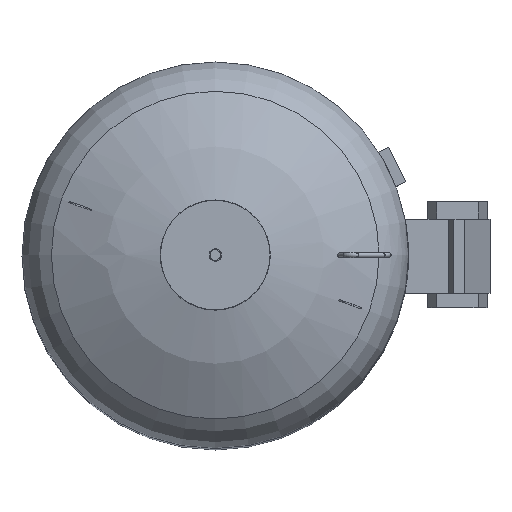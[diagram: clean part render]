
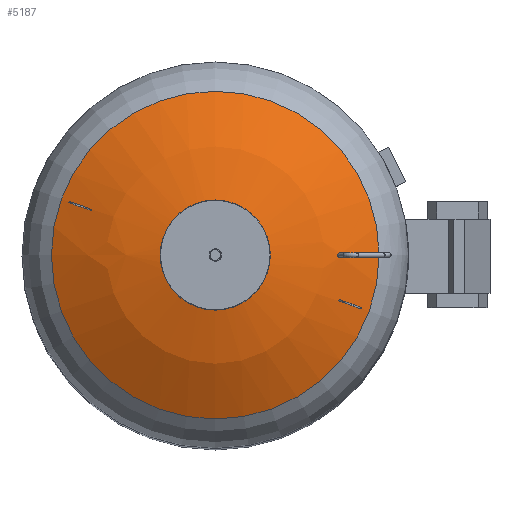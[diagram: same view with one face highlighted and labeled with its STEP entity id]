
A CAD part, top view. The second image highlights one B-rep face of the part: STEP entity #5187.
In plain terms, the highlighted spherical face has radius 967.7 mm.
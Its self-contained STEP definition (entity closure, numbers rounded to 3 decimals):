
#19=SPHERICAL_SURFACE('',#5566,967.7);
#142=FACE_BOUND('',#608,.T.);
#241=B_SPLINE_CURVE_WITH_KNOTS('',3,(#7773,#7774,#7775,#7776,#7777,#7778,
#7779,#7780,#7781,#7782,#7783,#7784,#7785,#7786,#7787,#7788,#7789,#7790),
 .UNSPECIFIED.,.F.,.F.,(4,2,2,2,2,2,2,2,4),(0.,0.302,0.605,
0.906,1.207,1.508,1.81,2.112,
2.414),.UNSPECIFIED.);
#242=B_SPLINE_CURVE_WITH_KNOTS('',3,(#7791,#7792,#7793,#7794,#7795,#7796,
#7797,#7798,#7799,#7800,#7801,#7802,#7803,#7804,#7805,#7806,#7807,#7808),
 .UNSPECIFIED.,.F.,.F.,(4,2,2,2,2,2,2,2,4),(2.414,2.717,
3.019,3.32,3.622,3.923,4.224,
4.526,4.829),.UNSPECIFIED.);
#314=FACE_OUTER_BOUND('',#607,.T.);
#607=EDGE_LOOP('',(#3604,#3605,#3606,#3607,#3608,#3609));
#608=EDGE_LOOP('',(#3610,#3611));
#1733=CIRCLE('',#5564,153.);
#1734=CIRCLE('',#5565,153.);
#1735=CIRCLE('',#5567,967.7);
#1736=CIRCLE('',#5568,508.692);
#1737=CIRCLE('',#5569,508.692);
#1989=VERTEX_POINT('',#7770);
#1990=VERTEX_POINT('',#7772);
#2107=VERTEX_POINT('',#8183);
#2108=VERTEX_POINT('',#8184);
#2109=VERTEX_POINT('',#8189);
#2110=VERTEX_POINT('',#8191);
#2518=EDGE_CURVE('',#1990,#1989,#241,.T.);
#2519=EDGE_CURVE('',#1989,#1990,#242,.T.);
#2687=EDGE_CURVE('',#2107,#2108,#1733,.T.);
#2688=EDGE_CURVE('',#2108,#2107,#1734,.T.);
#2690=EDGE_CURVE('',#2107,#2109,#1735,.T.);
#2691=EDGE_CURVE('',#2110,#2109,#1736,.T.);
#2692=EDGE_CURVE('',#2109,#2110,#1737,.T.);
#3604=ORIENTED_EDGE('',*,*,#2687,.T.);
#3605=ORIENTED_EDGE('',*,*,#2688,.T.);
#3606=ORIENTED_EDGE('',*,*,#2690,.T.);
#3607=ORIENTED_EDGE('',*,*,#2691,.F.);
#3608=ORIENTED_EDGE('',*,*,#2692,.F.);
#3609=ORIENTED_EDGE('',*,*,#2690,.F.);
#3610=ORIENTED_EDGE('',*,*,#2518,.T.);
#3611=ORIENTED_EDGE('',*,*,#2519,.T.);
#5187=ADVANCED_FACE('',(#314,#142),#19,.T.);
#5564=AXIS2_PLACEMENT_3D('',#8185,#6392,#6393);
#5565=AXIS2_PLACEMENT_3D('',#8186,#6394,#6395);
#5566=AXIS2_PLACEMENT_3D('',#8188,#6397,#6398);
#5567=AXIS2_PLACEMENT_3D('',#8190,#6399,#6400);
#5568=AXIS2_PLACEMENT_3D('',#8192,#6401,#6402);
#5569=AXIS2_PLACEMENT_3D('',#8193,#6403,#6404);
#6392=DIRECTION('center_axis',(0.,0.,-1.));
#6393=DIRECTION('ref_axis',(1.,0.,0.));
#6394=DIRECTION('center_axis',(0.,0.,-1.));
#6395=DIRECTION('ref_axis',(1.,0.,0.));
#6397=DIRECTION('center_axis',(0.,0.,1.));
#6398=DIRECTION('ref_axis',(1.,0.,0.));
#6399=DIRECTION('center_axis',(0.,-1.,0.));
#6400=DIRECTION('ref_axis',(-1.,0.,0.));
#6401=DIRECTION('center_axis',(0.,0.,-1.));
#6402=DIRECTION('ref_axis',(1.,0.,0.));
#6403=DIRECTION('center_axis',(0.,0.,-1.));
#6404=DIRECTION('ref_axis',(1.,0.,0.));
#7770=CARTESIAN_POINT('',(387.431,-8.,3515.403));
#7772=CARTESIAN_POINT('',(387.431,8.,3515.403));
#7773=CARTESIAN_POINT('Ctrl Pts',(387.431,8.,3515.403));
#7774=CARTESIAN_POINT('Ctrl Pts',(388.355,8.,3515.));
#7775=CARTESIAN_POINT('Ctrl Pts',(389.34,7.799,3514.569));
#7776=CARTESIAN_POINT('Ctrl Pts',(391.152,6.982,3513.777));
#7777=CARTESIAN_POINT('Ctrl Pts',(391.98,6.365,3513.416));
#7778=CARTESIAN_POINT('Ctrl Pts',(393.284,4.944,3512.846));
#7779=CARTESIAN_POINT('Ctrl Pts',(393.85,4.045,3512.599));
#7780=CARTESIAN_POINT('Ctrl Pts',(394.599,2.075,3512.271));
#7781=CARTESIAN_POINT('Ctrl Pts',(394.784,1.004,3512.19));
#7782=CARTESIAN_POINT('Ctrl Pts',(394.784,-1.004,3512.19));
#7783=CARTESIAN_POINT('Ctrl Pts',(394.599,-2.075,3512.271));
#7784=CARTESIAN_POINT('Ctrl Pts',(393.85,-4.045,3512.599));
#7785=CARTESIAN_POINT('Ctrl Pts',(393.284,-4.944,3512.846));
#7786=CARTESIAN_POINT('Ctrl Pts',(391.98,-6.365,3513.416));
#7787=CARTESIAN_POINT('Ctrl Pts',(391.152,-6.982,3513.777));
#7788=CARTESIAN_POINT('Ctrl Pts',(389.34,-7.799,3514.569));
#7789=CARTESIAN_POINT('Ctrl Pts',(388.355,-8.,3515.));
#7790=CARTESIAN_POINT('Ctrl Pts',(387.431,-8.,3515.403));
#7791=CARTESIAN_POINT('Ctrl Pts',(387.431,-8.,3515.403));
#7792=CARTESIAN_POINT('Ctrl Pts',(386.508,-8.,3515.807));
#7793=CARTESIAN_POINT('Ctrl Pts',(385.523,-7.799,3516.237));
#7794=CARTESIAN_POINT('Ctrl Pts',(383.71,-6.982,3517.029));
#7795=CARTESIAN_POINT('Ctrl Pts',(382.883,-6.365,3517.39));
#7796=CARTESIAN_POINT('Ctrl Pts',(381.578,-4.944,3517.96));
#7797=CARTESIAN_POINT('Ctrl Pts',(381.013,-4.045,3518.207));
#7798=CARTESIAN_POINT('Ctrl Pts',(380.263,-2.075,3518.535));
#7799=CARTESIAN_POINT('Ctrl Pts',(380.079,-1.004,3518.615));
#7800=CARTESIAN_POINT('Ctrl Pts',(380.079,1.004,3518.615));
#7801=CARTESIAN_POINT('Ctrl Pts',(380.263,2.075,3518.535));
#7802=CARTESIAN_POINT('Ctrl Pts',(381.013,4.045,3518.207));
#7803=CARTESIAN_POINT('Ctrl Pts',(381.578,4.944,3517.96));
#7804=CARTESIAN_POINT('Ctrl Pts',(382.883,6.365,3517.39));
#7805=CARTESIAN_POINT('Ctrl Pts',(383.71,6.982,3517.029));
#7806=CARTESIAN_POINT('Ctrl Pts',(385.523,7.799,3516.237));
#7807=CARTESIAN_POINT('Ctrl Pts',(386.508,8.,3515.807));
#7808=CARTESIAN_POINT('Ctrl Pts',(387.431,8.,3515.403));
#8183=CARTESIAN_POINT('',(-153.,0.,3584.209));
#8184=CARTESIAN_POINT('',(153.,0.,3584.209));
#8185=CARTESIAN_POINT('Origin',(0.,0.,3584.209));
#8186=CARTESIAN_POINT('Origin',(0.,0.,3584.209));
#8188=CARTESIAN_POINT('Origin',(0.,0.,2628.681));
#8189=CARTESIAN_POINT('',(-508.692,0.,3451.892));
#8190=CARTESIAN_POINT('Origin',(0.,0.,2628.681));
#8191=CARTESIAN_POINT('',(508.692,0.,3451.892));
#8192=CARTESIAN_POINT('Origin',(0.,0.,3451.892));
#8193=CARTESIAN_POINT('Origin',(0.,0.,3451.892));
